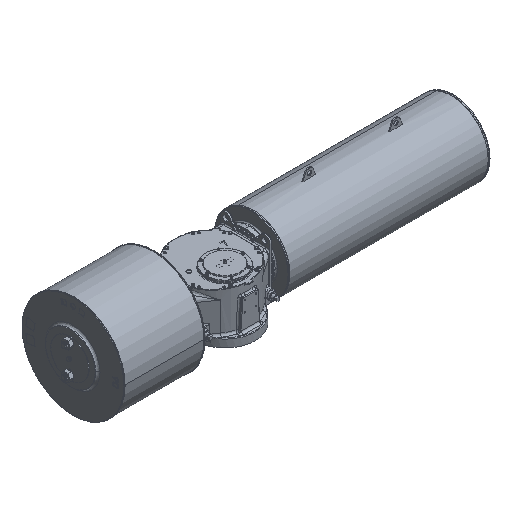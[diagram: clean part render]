
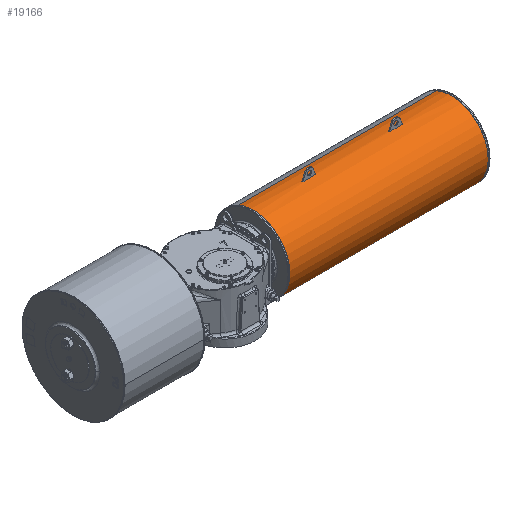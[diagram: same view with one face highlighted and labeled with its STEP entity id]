
A CAD part, isometric view. The second image highlights one B-rep face of the part: STEP entity #19166.
In plain terms, the highlighted cylindrical face has radius 340 mm (diameter 680 mm), a partial arc.
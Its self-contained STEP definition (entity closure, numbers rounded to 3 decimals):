
#41 = CARTESIAN_POINT ( 'NONE',  ( 1718., 198., 507.963 ) ) ;
#376 = DIRECTION ( 'NONE',  ( 1., 0., 0. ) ) ;
#849 = CARTESIAN_POINT ( 'NONE',  ( 1718., 208., 507.963 ) ) ;
#1113 = EDGE_LOOP ( 'NONE', ( #42255, #88259, #111796, #120571, #7010, #74054 ) ) ;
#3180 = EDGE_CURVE ( 'NONE', #111286, #118601, #91620, .T. ) ;
#7010 = ORIENTED_EDGE ( 'NONE', *, *, #31003, .F. ) ;
#8318 = ORIENTED_EDGE ( 'NONE', *, *, #79167, .F. ) ;
#9812 = VECTOR ( 'NONE', #65839, 1000. ) ;
#9931 = LINE ( 'NONE', #18963, #52590 ) ;
#10062 = CARTESIAN_POINT ( 'NONE',  ( 2293.385, 339.661, 479.326 ) ) ;
#11195 = DIRECTION ( 'NONE',  ( -1., 0., 0. ) ) ;
#14669 = DIRECTION ( 'NONE',  ( -1., 0., 0. ) ) ;
#14778 = CARTESIAN_POINT ( 'NONE',  ( 2298., 66.339, -143.326 ) ) ;
#15338 = DIRECTION ( 'NONE',  ( -1., 0., 0. ) ) ;
#15645 = ORIENTED_EDGE ( 'NONE', *, *, #39072, .T. ) ;
#17504 = FACE_BOUND ( 'NONE', #36592, .T. ) ;
#18963 = CARTESIAN_POINT ( 'NONE',  ( 2298., 339.661, 479.326 ) ) ;
#19111 = AXIS2_PLACEMENT_3D ( 'NONE', #68893, #98583, #70822 ) ;
#19166 = ADVANCED_FACE ( 'NONE', ( #93828, #17504, #36278 ), #75098, .T. ) ;
#20031 = DIRECTION ( 'NONE',  ( -1., 0., 0. ) ) ;
#20309 = EDGE_CURVE ( 'NONE', #85075, #35781, #62071, .T. ) ;
#20866 = DIRECTION ( 'NONE',  ( 0., -1., 0. ) ) ;
#22360 = ORIENTED_EDGE ( 'NONE', *, *, #48658, .F. ) ;
#22721 = ORIENTED_EDGE ( 'NONE', *, *, #37079, .F. ) ;
#23179 = DIRECTION ( 'NONE',  ( 0., 0., -1. ) ) ;
#24567 = VERTEX_POINT ( 'NONE', #87932 ) ;
#24973 = ORIENTED_EDGE ( 'NONE', *, *, #93141, .F. ) ;
#25412 = CIRCLE ( 'NONE', #116155, 340. ) ;
#25762 = DIRECTION ( 'NONE',  ( 1., 0., 0. ) ) ;
#26040 = DIRECTION ( 'NONE',  ( 0., 0., -1. ) ) ;
#31003 = EDGE_CURVE ( 'NONE', #122210, #39115, #78883, .T. ) ;
#31373 = VECTOR ( 'NONE', #20031, 1000. ) ;
#31736 = CARTESIAN_POINT ( 'NONE',  ( 2293.385, 203., 168. ) ) ;
#33173 = DIRECTION ( 'NONE',  ( 1., 0., 0. ) ) ;
#33832 = CARTESIAN_POINT ( 'NONE',  ( 1718., 203., 168. ) ) ;
#34382 = DIRECTION ( 'NONE',  ( 0., -0.402, -0.916 ) ) ;
#35592 = CARTESIAN_POINT ( 'NONE',  ( 1038., 198., 507.963 ) ) ;
#35781 = VERTEX_POINT ( 'NONE', #57093 ) ;
#36198 = VERTEX_POINT ( 'NONE', #105343 ) ;
#36278 = FACE_OUTER_BOUND ( 'NONE', #115995, .T. ) ;
#36592 = EDGE_LOOP ( 'NONE', ( #94420, #8318, #24973, #22360, #22721, #86621 ) ) ;
#37079 = EDGE_CURVE ( 'NONE', #101982, #69916, #107859, .T. ) ;
#37491 = VERTEX_POINT ( 'NONE', #10062 ) ;
#38390 = DIRECTION ( 'NONE',  ( -1., 0., 0. ) ) ;
#38416 = VERTEX_POINT ( 'NONE', #124186 ) ;
#39072 = EDGE_CURVE ( 'NONE', #37491, #85075, #9931, .T. ) ;
#39115 = VERTEX_POINT ( 'NONE', #849 ) ;
#39828 = DIRECTION ( 'NONE',  ( 0., 0.402, 0.916 ) ) ;
#42255 = ORIENTED_EDGE ( 'NONE', *, *, #107789, .F. ) ;
#43001 = AXIS2_PLACEMENT_3D ( 'NONE', #83940, #25762, #23179 ) ;
#44127 = CIRCLE ( 'NONE', #116334, 340. ) ;
#44585 = DIRECTION ( 'NONE',  ( 1., 0., 0. ) ) ;
#44997 = CIRCLE ( 'NONE', #92492, 340. ) ;
#46415 = CIRCLE ( 'NONE', #106222, 340. ) ;
#48658 = EDGE_CURVE ( 'NONE', #69916, #36198, #79730, .T. ) ;
#49190 = CIRCLE ( 'NONE', #43001, 340. ) ;
#50408 = CARTESIAN_POINT ( 'NONE',  ( 1038., 203., 168. ) ) ;
#51225 = EDGE_CURVE ( 'NONE', #117593, #118601, #49190, .T. ) ;
#51741 = AXIS2_PLACEMENT_3D ( 'NONE', #103502, #376, #39828 ) ;
#52590 = VECTOR ( 'NONE', #38390, 1000. ) ;
#54819 = DIRECTION ( 'NONE',  ( 0., -1., 0. ) ) ;
#56196 = CARTESIAN_POINT ( 'NONE',  ( 1718., 203., 508. ) ) ;
#56343 = DIRECTION ( 'NONE',  ( -1., 0., 0. ) ) ;
#57093 = CARTESIAN_POINT ( 'NONE',  ( 462.615, 66.339, -143.326 ) ) ;
#57416 = DIRECTION ( 'NONE',  ( 1., 0., 0. ) ) ;
#60985 = CARTESIAN_POINT ( 'NONE',  ( 1838., 203., 168. ) ) ;
#61381 = ORIENTED_EDGE ( 'NONE', *, *, #64794, .F. ) ;
#61518 = CARTESIAN_POINT ( 'NONE',  ( 1038., 208., 507.963 ) ) ;
#62002 = DIRECTION ( 'NONE',  ( -1., 0., 0. ) ) ;
#62071 = CIRCLE ( 'NONE', #51741, 340. ) ;
#64794 = EDGE_CURVE ( 'NONE', #38416, #35781, #125889, .T. ) ;
#65414 = CARTESIAN_POINT ( 'NONE',  ( 2298., 203., 168. ) ) ;
#65839 = DIRECTION ( 'NONE',  ( -1., 0., 0. ) ) ;
#68893 = CARTESIAN_POINT ( 'NONE',  ( 918., 203., 168. ) ) ;
#69916 = VERTEX_POINT ( 'NONE', #79124 ) ;
#70822 = DIRECTION ( 'NONE',  ( 0., 1., 0. ) ) ;
#70993 = CIRCLE ( 'NONE', #97682, 340. ) ;
#71130 = CARTESIAN_POINT ( 'NONE',  ( 2298., 208., 507.963 ) ) ;
#71841 = CARTESIAN_POINT ( 'NONE',  ( 1838., 208., 507.963 ) ) ;
#73112 = VERTEX_POINT ( 'NONE', #103282 ) ;
#74054 = ORIENTED_EDGE ( 'NONE', *, *, #87178, .F. ) ;
#74948 = LINE ( 'NONE', #113660, #83781 ) ;
#75098 = CYLINDRICAL_SURFACE ( 'NONE', #107208, 340. ) ;
#77425 = DIRECTION ( 'NONE',  ( 0., 1., 0. ) ) ;
#78883 = LINE ( 'NONE', #71130, #31373 ) ;
#79124 = CARTESIAN_POINT ( 'NONE',  ( 918., 203., 508. ) ) ;
#79167 = EDGE_CURVE ( 'NONE', #98315, #73112, #44997, .T. ) ;
#79730 = CIRCLE ( 'NONE', #94175, 340. ) ;
#80982 = ORIENTED_EDGE ( 'NONE', *, *, #91885, .T. ) ;
#81512 = DIRECTION ( 'NONE',  ( -1., 0., 0. ) ) ;
#83781 = VECTOR ( 'NONE', #44585, 1000. ) ;
#83940 = CARTESIAN_POINT ( 'NONE',  ( 1718., 203., 168. ) ) ;
#84913 = VERTEX_POINT ( 'NONE', #61518 ) ;
#85075 = VERTEX_POINT ( 'NONE', #112449 ) ;
#86621 = ORIENTED_EDGE ( 'NONE', *, *, #114992, .T. ) ;
#86887 = CARTESIAN_POINT ( 'NONE',  ( 1038., 203., 168. ) ) ;
#87178 = EDGE_CURVE ( 'NONE', #24567, #122210, #44127, .T. ) ;
#87932 = CARTESIAN_POINT ( 'NONE',  ( 1838., 203., 508. ) ) ;
#88259 = ORIENTED_EDGE ( 'NONE', *, *, #3180, .T. ) ;
#89033 = CARTESIAN_POINT ( 'NONE',  ( 918., 203., 168. ) ) ;
#90549 = DIRECTION ( 'NONE',  ( 0., 0.402, 0.916 ) ) ;
#91620 = LINE ( 'NONE', #120703, #117004 ) ;
#91885 = EDGE_CURVE ( 'NONE', #38416, #37491, #46415, .T. ) ;
#92492 = AXIS2_PLACEMENT_3D ( 'NONE', #50408, #62002, #109771 ) ;
#93093 = ORIENTED_EDGE ( 'NONE', *, *, #20309, .T. ) ;
#93141 = EDGE_CURVE ( 'NONE', #36198, #98315, #74948, .T. ) ;
#93568 = CARTESIAN_POINT ( 'NONE',  ( 1838., 203., 168. ) ) ;
#93828 = FACE_BOUND ( 'NONE', #1113, .T. ) ;
#94024 = DIRECTION ( 'NONE',  ( -1., 0., 0. ) ) ;
#94175 = AXIS2_PLACEMENT_3D ( 'NONE', #89033, #57416, #77425 ) ;
#94420 = ORIENTED_EDGE ( 'NONE', *, *, #121321, .F. ) ;
#94660 = DIRECTION ( 'NONE',  ( 0., 0., 1. ) ) ;
#97682 = AXIS2_PLACEMENT_3D ( 'NONE', #86887, #94024, #94660 ) ;
#98315 = VERTEX_POINT ( 'NONE', #35592 ) ;
#98583 = DIRECTION ( 'NONE',  ( 1., 0., 0. ) ) ;
#101276 = CARTESIAN_POINT ( 'NONE',  ( 2298., 208., 507.963 ) ) ;
#101911 = LINE ( 'NONE', #101276, #103014 ) ;
#101982 = VERTEX_POINT ( 'NONE', #104913 ) ;
#102304 = AXIS2_PLACEMENT_3D ( 'NONE', #33832, #33173, #26040 ) ;
#103014 = VECTOR ( 'NONE', #119428, 1000. ) ;
#103282 = CARTESIAN_POINT ( 'NONE',  ( 1038., 203., 508. ) ) ;
#103502 = CARTESIAN_POINT ( 'NONE',  ( 462.615, 203., 168. ) ) ;
#104913 = CARTESIAN_POINT ( 'NONE',  ( 918., 208., 507.963 ) ) ;
#105343 = CARTESIAN_POINT ( 'NONE',  ( 918., 198., 507.963 ) ) ;
#106222 = AXIS2_PLACEMENT_3D ( 'NONE', #31736, #81512, #90549 ) ;
#107208 = AXIS2_PLACEMENT_3D ( 'NONE', #65414, #56343, #34382 ) ;
#107789 = EDGE_CURVE ( 'NONE', #111286, #24567, #25412, .T. ) ;
#107859 = CIRCLE ( 'NONE', #19111, 340. ) ;
#109771 = DIRECTION ( 'NONE',  ( 0., 0., 1. ) ) ;
#111120 = EDGE_CURVE ( 'NONE', #39115, #117593, #127067, .T. ) ;
#111286 = VERTEX_POINT ( 'NONE', #127468 ) ;
#111796 = ORIENTED_EDGE ( 'NONE', *, *, #51225, .F. ) ;
#112449 = CARTESIAN_POINT ( 'NONE',  ( 462.615, 339.661, 479.326 ) ) ;
#113660 = CARTESIAN_POINT ( 'NONE',  ( 2298., 198., 507.963 ) ) ;
#114992 = EDGE_CURVE ( 'NONE', #101982, #84913, #101911, .T. ) ;
#115995 = EDGE_LOOP ( 'NONE', ( #80982, #15645, #93093, #61381 ) ) ;
#116155 = AXIS2_PLACEMENT_3D ( 'NONE', #60985, #11195, #20866 ) ;
#116334 = AXIS2_PLACEMENT_3D ( 'NONE', #93568, #15338, #54819 ) ;
#117004 = VECTOR ( 'NONE', #14669, 1000. ) ;
#117593 = VERTEX_POINT ( 'NONE', #56196 ) ;
#118601 = VERTEX_POINT ( 'NONE', #41 ) ;
#119428 = DIRECTION ( 'NONE',  ( 1., 0., 0. ) ) ;
#120571 = ORIENTED_EDGE ( 'NONE', *, *, #111120, .F. ) ;
#120703 = CARTESIAN_POINT ( 'NONE',  ( 2298., 198., 507.963 ) ) ;
#121321 = EDGE_CURVE ( 'NONE', #73112, #84913, #70993, .T. ) ;
#122210 = VERTEX_POINT ( 'NONE', #71841 ) ;
#124186 = CARTESIAN_POINT ( 'NONE',  ( 2293.385, 66.339, -143.326 ) ) ;
#125889 = LINE ( 'NONE', #14778, #9812 ) ;
#127067 = CIRCLE ( 'NONE', #102304, 340. ) ;
#127468 = CARTESIAN_POINT ( 'NONE',  ( 1838., 198., 507.963 ) ) ;
